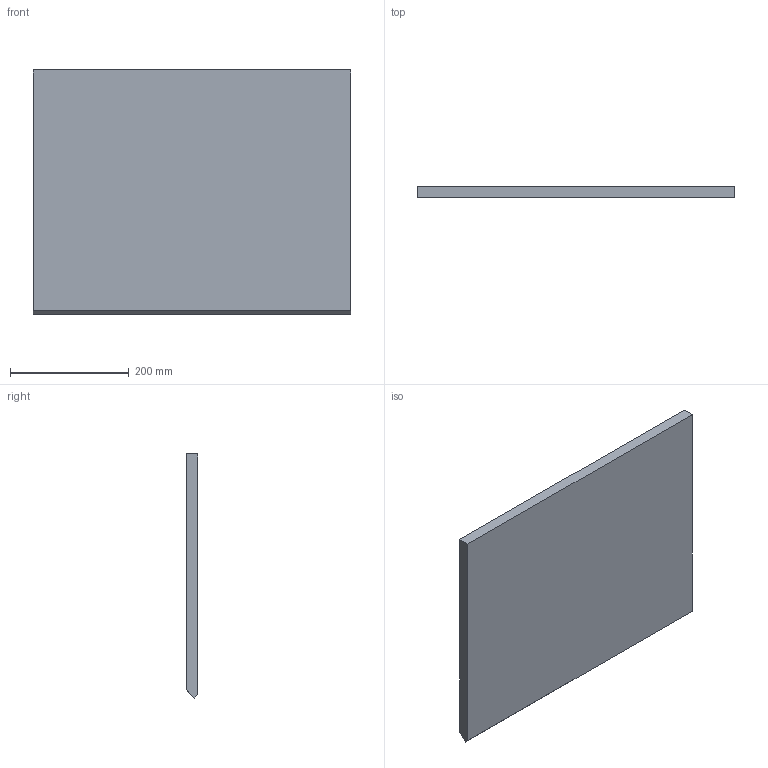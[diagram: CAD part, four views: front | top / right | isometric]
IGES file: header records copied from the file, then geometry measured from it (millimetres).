
Start section:  PTC IGES file: C:\Documents and Settings\Brad\Desktop\IGES\panel_corner .igs
Global section: file name: C:\Documents and Settings\Brad\Desktop\IGES\panel_corner.igs; native system: Brad by Parametric Technology Corporation; preprocessor: 2003250; author: Unknown; organization: PTC; date: 040521.142625; units: inch
Bounding box: 533.4 x 19.05 x 410.35 mm (x, y, z)
Volume: 4112934.3 mm3; surface area: 467548.2 mm2
Topology: 1 solids, 1 shells, 7 faces, 15 edges, 10 vertices
Faces by surface type: bspline 7
